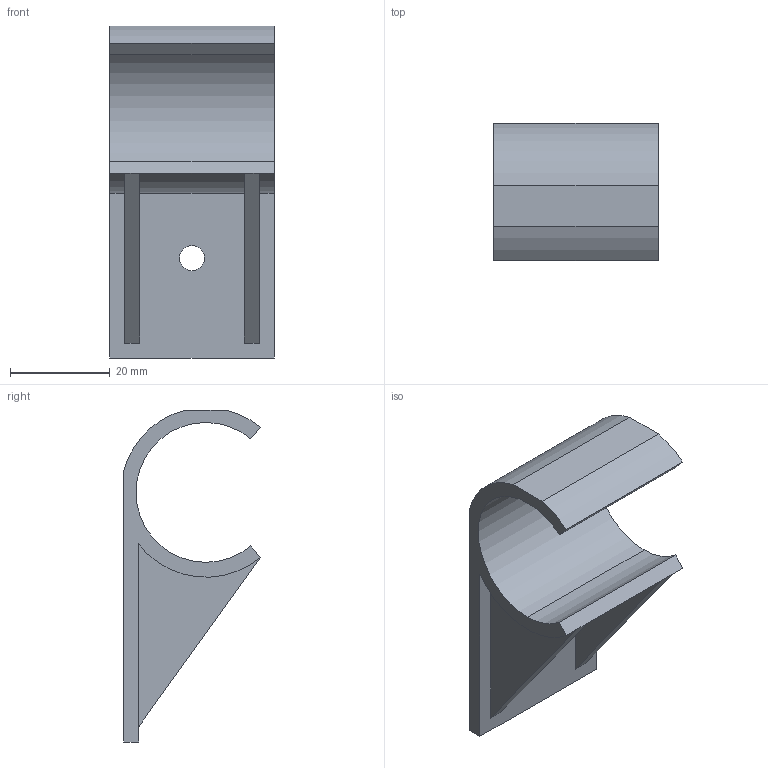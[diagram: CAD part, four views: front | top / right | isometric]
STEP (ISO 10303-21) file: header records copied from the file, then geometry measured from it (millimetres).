
FILE_DESCRIPTION (( 'STEP AP214' ), '1' );
FILE_NAME ('PJ-706B.STEP', '2023-10-11T06:33:44', ( 'catia' ), ( 'HP Inc.' ), 'SwSTEP 2.0', 'SolidWorks 2021', '' );
FILE_SCHEMA (( 'AUTOMOTIVE_DESIGN' ));
Length unit declared in the file: millimetre
Products named in the file (1): PJ-706B
Bounding box: 33 x 27.43 x 66.5 mm (x, y, z)
Volume: 13057.9 mm3; surface area: 9501.4 mm2
Topology: 1 solids, 1 shells, 25 faces, 65 edges, 42 vertices
Faces by surface type: plane 14, cylinder 11
Entity records: 807 total; most frequent: DIRECTION 139, CARTESIAN_POINT 133, ORIENTED_EDGE 130, EDGE_CURVE 65, AXIS2_PLACEMENT_3D 48, VECTOR 43, LINE 43, VERTEX_POINT 42
